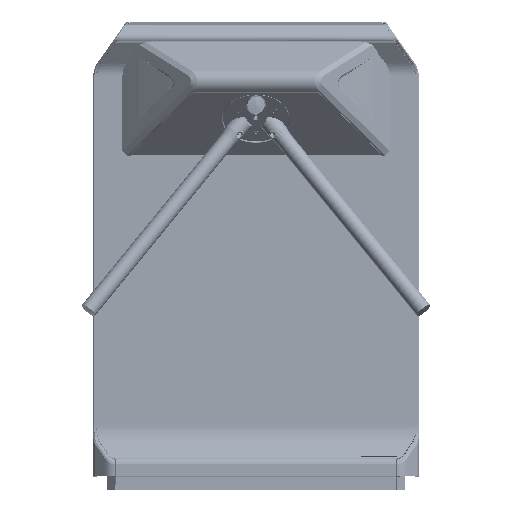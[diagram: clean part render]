
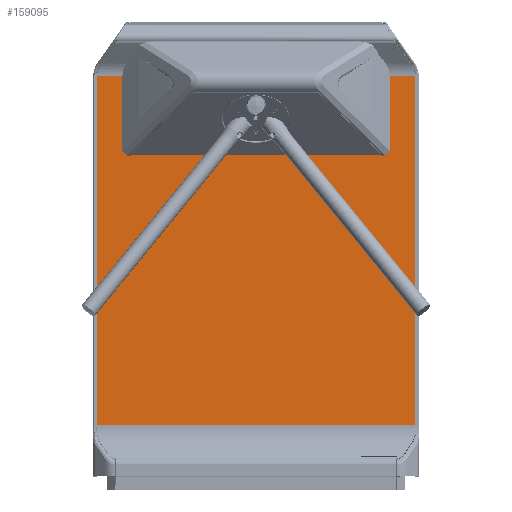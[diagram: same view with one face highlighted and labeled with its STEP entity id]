
A CAD part, left-side view. The second image highlights one B-rep face of the part: STEP entity #159095.
In plain terms, the highlighted planar face has unit normal (-1, 0, 0) as drawn and (1, 0, 0) by its records, which use the part's own axes.
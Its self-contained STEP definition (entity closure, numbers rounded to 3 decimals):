
#9650=CIRCLE('',#175513,0.5);
#9651=CIRCLE('',#175514,0.5);
#9652=CIRCLE('',#175515,0.5);
#9653=CIRCLE('',#175516,0.5);
#18377=ELLIPSE('',#175512,1.,1.);
#18378=ELLIPSE('',#175517,1.,1.);
#26652=ORIENTED_EDGE('',*,*,#76006,.T.);
#26653=ORIENTED_EDGE('',*,*,#76084,.T.);
#26654=ORIENTED_EDGE('',*,*,#76085,.T.);
#26655=ORIENTED_EDGE('',*,*,#76086,.T.);
#26656=ORIENTED_EDGE('',*,*,#76087,.T.);
#26657=ORIENTED_EDGE('',*,*,#76088,.F.);
#26658=ORIENTED_EDGE('',*,*,#76089,.T.);
#26659=ORIENTED_EDGE('',*,*,#76090,.F.);
#26660=ORIENTED_EDGE('',*,*,#76091,.T.);
#26661=ORIENTED_EDGE('',*,*,#76092,.T.);
#26662=ORIENTED_EDGE('',*,*,#76093,.F.);
#26663=ORIENTED_EDGE('',*,*,#76094,.T.);
#26664=ORIENTED_EDGE('',*,*,#76095,.F.);
#26665=ORIENTED_EDGE('',*,*,#76096,.T.);
#26666=ORIENTED_EDGE('',*,*,#76097,.F.);
#26667=ORIENTED_EDGE('',*,*,#76098,.F.);
#26668=ORIENTED_EDGE('',*,*,#76099,.F.);
#26669=ORIENTED_EDGE('',*,*,#76100,.F.);
#26670=ORIENTED_EDGE('',*,*,#76101,.F.);
#26671=ORIENTED_EDGE('',*,*,#76102,.F.);
#26672=ORIENTED_EDGE('',*,*,#76103,.F.);
#26673=ORIENTED_EDGE('',*,*,#76104,.T.);
#76006=EDGE_CURVE('',#100709,#100708,#114669,.T.);
#76084=EDGE_CURVE('',#100708,#100775,#114708,.F.);
#76085=EDGE_CURVE('',#100775,#100776,#18377,.T.);
#76086=EDGE_CURVE('',#100776,#100777,#114709,.F.);
#76087=EDGE_CURVE('',#100777,#100778,#114710,.F.);
#76088=EDGE_CURVE('',#100779,#100778,#9650,.F.);
#76089=EDGE_CURVE('',#100779,#100780,#114711,.T.);
#76090=EDGE_CURVE('',#100781,#100780,#9651,.F.);
#76091=EDGE_CURVE('',#100781,#100782,#114712,.F.);
#76092=EDGE_CURVE('',#100782,#100783,#114713,.F.);
#76093=EDGE_CURVE('',#100784,#100783,#114714,.F.);
#76094=EDGE_CURVE('',#100784,#100785,#9652,.F.);
#76095=EDGE_CURVE('',#100786,#100785,#114715,.T.);
#76096=EDGE_CURVE('',#100786,#100787,#9653,.F.);
#76097=EDGE_CURVE('',#100788,#100787,#114716,.F.);
#76098=EDGE_CURVE('',#100789,#100788,#114717,.F.);
#76099=EDGE_CURVE('',#100790,#100789,#18378,.T.);
#76100=EDGE_CURVE('',#100791,#100790,#114718,.F.);
#76101=EDGE_CURVE('',#100792,#100791,#114719,.T.);
#76102=EDGE_CURVE('',#100793,#100792,#114720,.T.);
#76103=EDGE_CURVE('',#100794,#100793,#114721,.T.);
#76104=EDGE_CURVE('',#100794,#100709,#114722,.T.);
#100708=VERTEX_POINT('',#244804);
#100709=VERTEX_POINT('',#244806);
#100775=VERTEX_POINT('',#245075);
#100776=VERTEX_POINT('',#245077);
#100777=VERTEX_POINT('',#245079);
#100778=VERTEX_POINT('',#245081);
#100779=VERTEX_POINT('',#245083);
#100780=VERTEX_POINT('',#245085);
#100781=VERTEX_POINT('',#245087);
#100782=VERTEX_POINT('',#245089);
#100783=VERTEX_POINT('',#245091);
#100784=VERTEX_POINT('',#245093);
#100785=VERTEX_POINT('',#245095);
#100786=VERTEX_POINT('',#245097);
#100787=VERTEX_POINT('',#245099);
#100788=VERTEX_POINT('',#245101);
#100789=VERTEX_POINT('',#245103);
#100790=VERTEX_POINT('',#245105);
#100791=VERTEX_POINT('',#245107);
#100792=VERTEX_POINT('',#245109);
#100793=VERTEX_POINT('',#245111);
#100794=VERTEX_POINT('',#245113);
#114669=LINE('',#244805,#123765);
#114708=LINE('',#245074,#123804);
#114709=LINE('',#245078,#123805);
#114710=LINE('',#245080,#123806);
#114711=LINE('',#245084,#123807);
#114712=LINE('',#245088,#123808);
#114713=LINE('',#245090,#123809);
#114714=LINE('',#245092,#123810);
#114715=LINE('',#245096,#123811);
#114716=LINE('',#245100,#123812);
#114717=LINE('',#245102,#123813);
#114718=LINE('',#245106,#123814);
#114719=LINE('',#245108,#123815);
#114720=LINE('',#245110,#123816);
#114721=LINE('',#245112,#123817);
#114722=LINE('',#245114,#123818);
#123765=VECTOR('',#195680,1000.);
#123804=VECTOR('',#195783,1000.);
#123805=VECTOR('',#195786,1000.);
#123806=VECTOR('',#195787,1000.);
#123807=VECTOR('',#195790,1000.);
#123808=VECTOR('',#195793,1000.);
#123809=VECTOR('',#195794,1000.);
#123810=VECTOR('',#195795,1000.);
#123811=VECTOR('',#195798,1000.);
#123812=VECTOR('',#195801,1000.);
#123813=VECTOR('',#195802,1000.);
#123814=VECTOR('',#195805,1000.);
#123815=VECTOR('',#195806,1000.);
#123816=VECTOR('',#195807,1000.);
#123817=VECTOR('',#195808,1000.);
#123818=VECTOR('',#195809,1000.);
#132326=EDGE_LOOP('',(#26652,#26653,#26654,#26655,#26656,#26657,#26658,
#26659,#26660,#26661,#26662,#26663,#26664,#26665,#26666,#26667,#26668,#26669,
#26670,#26671,#26672,#26673));
#144463=FACE_BOUND('',#132326,.T.);
#156528=PLANE('',#175511);
#159095=ADVANCED_FACE('',(#144463),#156528,.F.);
#175511=AXIS2_PLACEMENT_3D('',#245073,#195781,#195782);
#175512=AXIS2_PLACEMENT_3D('',#245076,#195784,#195785);
#175513=AXIS2_PLACEMENT_3D('',#245082,#195788,#195789);
#175514=AXIS2_PLACEMENT_3D('',#245086,#195791,#195792);
#175515=AXIS2_PLACEMENT_3D('',#245094,#195796,#195797);
#175516=AXIS2_PLACEMENT_3D('',#245098,#195799,#195800);
#175517=AXIS2_PLACEMENT_3D('',#245104,#195803,#195804);
#195680=DIRECTION('',(0.,-1.,0.));
#195781=DIRECTION('',(-1.,0.,0.));
#195782=DIRECTION('',(0.,0.,1.));
#195783=DIRECTION('',(0.,0.,1.));
#195784=DIRECTION('',(-1.,0.,0.));
#195785=DIRECTION('',(0.,0.924,-0.383));
#195786=DIRECTION('',(0.,0.707,0.707));
#195787=DIRECTION('',(0.,0.,1.));
#195788=DIRECTION('',(-1.,0.,0.));
#195789=DIRECTION('',(0.,0.,1.));
#195790=DIRECTION('',(0.,-1.,0.));
#195791=DIRECTION('',(-1.,0.,0.));
#195792=DIRECTION('',(0.,0.,1.));
#195793=DIRECTION('',(0.,0.087,-0.996));
#195794=DIRECTION('',(0.,1.,0.));
#195795=DIRECTION('',(0.,-0.087,-0.996));
#195796=DIRECTION('',(1.,0.,0.));
#195797=DIRECTION('',(0.,0.,1.));
#195798=DIRECTION('',(0.,1.,0.));
#195799=DIRECTION('',(1.,0.,0.));
#195800=DIRECTION('',(0.,0.,1.));
#195801=DIRECTION('',(0.,0.,1.));
#195802=DIRECTION('',(0.,-0.707,0.707));
#195803=DIRECTION('',(1.,0.,0.));
#195804=DIRECTION('',(0.,-0.924,-0.383));
#195805=DIRECTION('',(0.,0.,1.));
#195806=DIRECTION('',(0.,1.,0.));
#195807=DIRECTION('',(0.,0.,1.));
#195808=DIRECTION('',(0.,-1.,0.));
#195809=DIRECTION('',(0.,0.,1.));
#244804=CARTESIAN_POINT('',(44.5,296.522,929.));
#244805=CARTESIAN_POINT('',(44.5,1003.45,929.));
#244806=CARTESIAN_POINT('',(44.5,356.203,929.));
#245073=CARTESIAN_POINT('',(44.5,1003.45,144.8));
#245074=CARTESIAN_POINT('',(44.5,296.522,144.8));
#245075=CARTESIAN_POINT('',(44.5,296.522,762.381));
#245076=CARTESIAN_POINT('',(44.5,295.522,762.381));
#245077=CARTESIAN_POINT('',(44.5,296.229,761.674));
#245078=CARTESIAN_POINT('',(44.5,341.402,806.847));
#245079=CARTESIAN_POINT('',(44.5,290.496,755.941));
#245080=CARTESIAN_POINT('',(44.5,290.496,144.8));
#245081=CARTESIAN_POINT('',(44.5,290.496,750.804));
#245082=CARTESIAN_POINT('',(44.5,289.996,750.804));
#245083=CARTESIAN_POINT('',(44.5,289.996,750.304));
#245084=CARTESIAN_POINT('',(44.5,1003.45,750.304));
#245085=CARTESIAN_POINT('',(44.5,281.004,750.304));
#245086=CARTESIAN_POINT('',(44.5,281.004,750.804));
#245087=CARTESIAN_POINT('',(44.5,280.506,750.761));
#245088=CARTESIAN_POINT('',(44.5,280.445,751.457));
#245089=CARTESIAN_POINT('',(44.5,280.485,751.004));
#245090=CARTESIAN_POINT('',(44.5,1003.45,751.004));
#245091=CARTESIAN_POINT('',(44.5,-280.485,751.004));
#245092=CARTESIAN_POINT('',(44.5,-280.445,751.457));
#245093=CARTESIAN_POINT('',(44.5,-280.506,750.761));
#245094=CARTESIAN_POINT('',(44.5,-281.004,750.804));
#245095=CARTESIAN_POINT('',(44.5,-281.004,750.304));
#245096=CARTESIAN_POINT('',(44.5,-1003.45,750.304));
#245097=CARTESIAN_POINT('',(44.5,-289.996,750.304));
#245098=CARTESIAN_POINT('',(44.5,-289.996,750.804));
#245099=CARTESIAN_POINT('',(44.5,-290.496,750.804));
#245100=CARTESIAN_POINT('',(44.5,-290.496,144.8));
#245101=CARTESIAN_POINT('',(44.5,-290.496,755.941));
#245102=CARTESIAN_POINT('',(44.5,-341.402,806.847));
#245103=CARTESIAN_POINT('',(44.5,-296.229,761.674));
#245104=CARTESIAN_POINT('',(44.5,-295.522,762.381));
#245105=CARTESIAN_POINT('',(44.5,-296.522,762.381));
#245106=CARTESIAN_POINT('',(44.5,-296.522,144.8));
#245107=CARTESIAN_POINT('',(44.5,-296.522,929.));
#245108=CARTESIAN_POINT('',(44.5,-1003.45,929.));
#245109=CARTESIAN_POINT('',(44.5,-356.203,929.));
#245110=CARTESIAN_POINT('',(44.5,-356.203,144.8));
#245111=CARTESIAN_POINT('',(44.5,-356.203,144.8));
#245112=CARTESIAN_POINT('',(44.5,1003.45,144.8));
#245113=CARTESIAN_POINT('',(44.5,356.203,144.8));
#245114=CARTESIAN_POINT('',(44.5,356.203,144.8));
